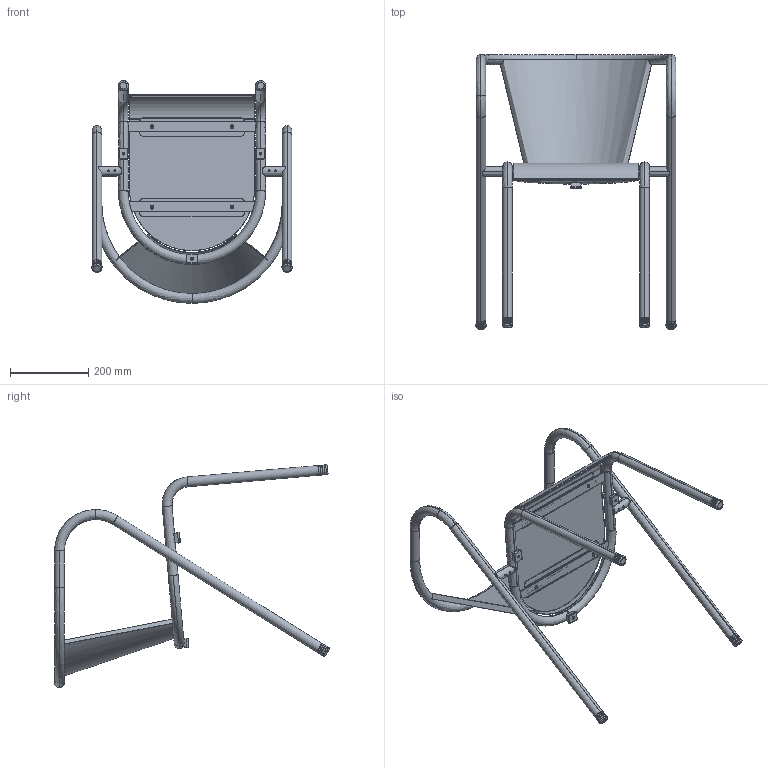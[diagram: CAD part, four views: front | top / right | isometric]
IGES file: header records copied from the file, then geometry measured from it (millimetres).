
Start section: SolidWorks IGES file using analytic representation for surfaces
Global section: file name: \\SRVADICO\Gabinete Tecnico\PARTILHA ID TECNICO\ADICO_2017\HOTELARIA\OUTROS\5008\5008 Revisão\5008_CHAPA\para envio EMAIL\3D\5008 chapa_3D.IGS; native system: SolidWorks 2017; preprocessor: SolidWorks 2017; author: emilia; date: 180109.175709; units: millimetre
Bounding box: 511 x 700.56 x 568 mm (x, y, z)
Surface area: 1347637.3 mm2 (no closed solid volume)
Topology: 0 solids, 0 shells, 945 faces, 10450 edges, 10433 vertices
Faces by surface type: bspline 526, revolution 419
